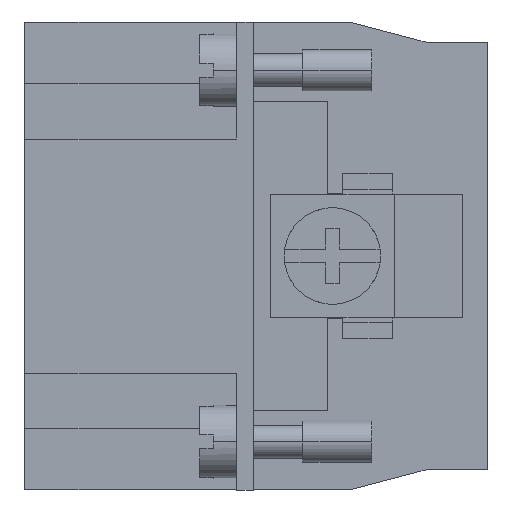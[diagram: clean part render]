
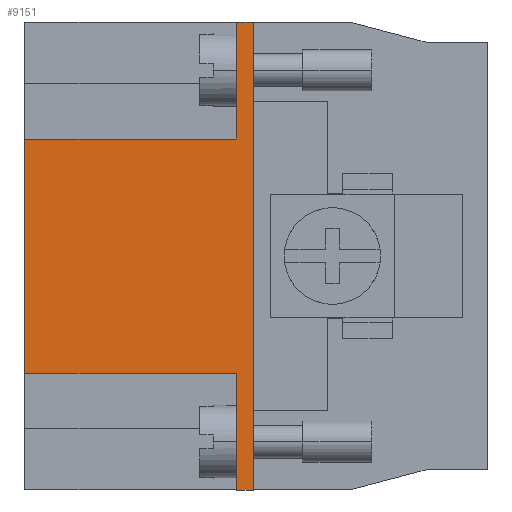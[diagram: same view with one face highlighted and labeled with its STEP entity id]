
A CAD part, left-side view. The second image highlights one B-rep face of the part: STEP entity #9151.
In plain terms, the highlighted planar face has unit normal (-1, 0, 0).
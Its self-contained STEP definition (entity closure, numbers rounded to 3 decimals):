
#8 = ORIENTED_EDGE ( 'NONE', *, *, #14445, .F. ) ;
#245 = CARTESIAN_POINT ( 'NONE',  ( -32., 0., -8.5 ) ) ;
#404 = VECTOR ( 'NONE', #12051, 1000. ) ;
#461 = VERTEX_POINT ( 'NONE', #13042 ) ;
#832 = VERTEX_POINT ( 'NONE', #13797 ) ;
#2395 = EDGE_CURVE ( 'NONE', #4426, #16417, #4038, .T. ) ;
#2471 = VERTEX_POINT ( 'NONE', #4940 ) ;
#2701 = CARTESIAN_POINT ( 'NONE',  ( -32., -15.4, 8.5 ) ) ;
#2943 = VECTOR ( 'NONE', #11387, 1000. ) ;
#3466 = CARTESIAN_POINT ( 'NONE',  ( -32., -16.6, -8.5 ) ) ;
#3508 = VERTEX_POINT ( 'NONE', #6645 ) ;
#3536 = ORIENTED_EDGE ( 'NONE', *, *, #2395, .F. ) ;
#3771 = VECTOR ( 'NONE', #7141, 1000. ) ;
#3812 = ORIENTED_EDGE ( 'NONE', *, *, #12106, .T. ) ;
#4038 = LINE ( 'NONE', #4770, #14509 ) ;
#4227 = DIRECTION ( 'NONE',  ( 1., 0., 0. ) ) ;
#4375 = EDGE_CURVE ( 'NONE', #3508, #461, #14262, .T. ) ;
#4426 = VERTEX_POINT ( 'NONE', #11743 ) ;
#4442 = EDGE_LOOP ( 'NONE', ( #13784, #16919, #6967, #9650, #3812, #3536, #8, #15990 ) ) ;
#4559 = VECTOR ( 'NONE', #7158, 1000. ) ;
#4681 = LINE ( 'NONE', #9468, #404 ) ;
#4770 = CARTESIAN_POINT ( 'NONE',  ( -32., -38.001, -8.5 ) ) ;
#4940 = CARTESIAN_POINT ( 'NONE',  ( -32., -15.4, 17. ) ) ;
#5344 = DIRECTION ( 'NONE',  ( 0., 0., -1. ) ) ;
#5766 = DIRECTION ( 'NONE',  ( 0., -1., 0. ) ) ;
#5909 = VERTEX_POINT ( 'NONE', #2701 ) ;
#6010 = CARTESIAN_POINT ( 'NONE',  ( -32., -15.4, 17. ) ) ;
#6085 = DIRECTION ( 'NONE',  ( 0., 0., 1. ) ) ;
#6354 = CARTESIAN_POINT ( 'NONE',  ( -32., 0., -8.5 ) ) ;
#6645 = CARTESIAN_POINT ( 'NONE',  ( -32., -16.6, -17. ) ) ;
#6736 = DIRECTION ( 'NONE',  ( 0., 1., 0. ) ) ;
#6799 = PLANE ( 'NONE',  #7605 ) ;
#6967 = ORIENTED_EDGE ( 'NONE', *, *, #16153, .F. ) ;
#7141 = DIRECTION ( 'NONE',  ( 0., 1., 0. ) ) ;
#7158 = DIRECTION ( 'NONE',  ( 0., 0., 1. ) ) ;
#7166 = EDGE_CURVE ( 'NONE', #2471, #461, #4681, .T. ) ;
#7203 = CARTESIAN_POINT ( 'NONE',  ( -32., -15.4, -17. ) ) ;
#7334 = DIRECTION ( 'NONE',  ( 0., 1., 0. ) ) ;
#7605 = AXIS2_PLACEMENT_3D ( 'NONE', #10793, #4227, #6736 ) ;
#7650 = LINE ( 'NONE', #8655, #2943 ) ;
#8537 = CARTESIAN_POINT ( 'NONE',  ( -32., -38.001, 8.5 ) ) ;
#8648 = LINE ( 'NONE', #6010, #4559 ) ;
#8655 = CARTESIAN_POINT ( 'NONE',  ( -32., -15.4, 17. ) ) ;
#8678 = LINE ( 'NONE', #7203, #16945 ) ;
#8894 = CARTESIAN_POINT ( 'NONE',  ( -32., 0., 8.5 ) ) ;
#9151 = ADVANCED_FACE ( 'NONE', ( #11980 ), #6799, .F. ) ;
#9468 = CARTESIAN_POINT ( 'NONE',  ( -32., -15.4, 17. ) ) ;
#9650 = ORIENTED_EDGE ( 'NONE', *, *, #15048, .T. ) ;
#9899 = LINE ( 'NONE', #8537, #3771 ) ;
#10793 = CARTESIAN_POINT ( 'NONE',  ( -32., -38.001, -8.5 ) ) ;
#10857 = VERTEX_POINT ( 'NONE', #8894 ) ;
#11387 = DIRECTION ( 'NONE',  ( 0., 0., 1. ) ) ;
#11743 = CARTESIAN_POINT ( 'NONE',  ( -32., -15.4, -8.5 ) ) ;
#11980 = FACE_OUTER_BOUND ( 'NONE', #4442, .T. ) ;
#12051 = DIRECTION ( 'NONE',  ( 0., -1., 0. ) ) ;
#12106 = EDGE_CURVE ( 'NONE', #10857, #16417, #15541, .T. ) ;
#12257 = VECTOR ( 'NONE', #5344, 1000. ) ;
#13042 = CARTESIAN_POINT ( 'NONE',  ( -32., -16.6, 17. ) ) ;
#13784 = ORIENTED_EDGE ( 'NONE', *, *, #4375, .T. ) ;
#13797 = CARTESIAN_POINT ( 'NONE',  ( -32., -15.4, -17. ) ) ;
#14262 = LINE ( 'NONE', #3466, #16136 ) ;
#14445 = EDGE_CURVE ( 'NONE', #832, #4426, #7650, .T. ) ;
#14509 = VECTOR ( 'NONE', #7334, 1000. ) ;
#15006 = EDGE_CURVE ( 'NONE', #832, #3508, #8678, .T. ) ;
#15048 = EDGE_CURVE ( 'NONE', #5909, #10857, #9899, .T. ) ;
#15541 = LINE ( 'NONE', #245, #12257 ) ;
#15990 = ORIENTED_EDGE ( 'NONE', *, *, #15006, .T. ) ;
#16136 = VECTOR ( 'NONE', #6085, 1000. ) ;
#16153 = EDGE_CURVE ( 'NONE', #5909, #2471, #8648, .T. ) ;
#16417 = VERTEX_POINT ( 'NONE', #6354 ) ;
#16919 = ORIENTED_EDGE ( 'NONE', *, *, #7166, .F. ) ;
#16945 = VECTOR ( 'NONE', #5766, 1000. ) ;
